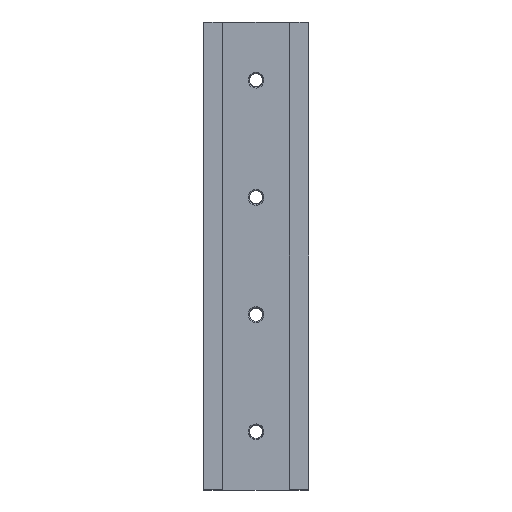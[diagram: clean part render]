
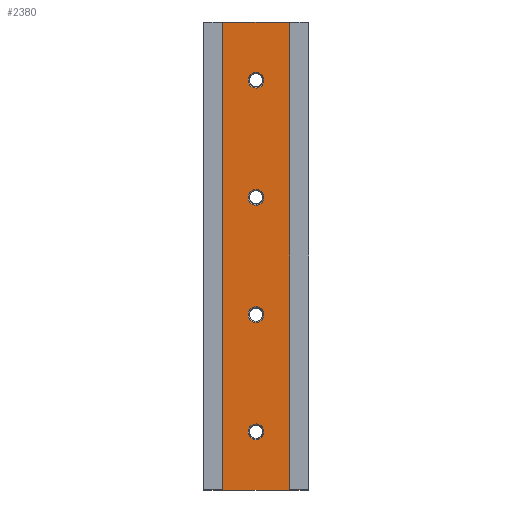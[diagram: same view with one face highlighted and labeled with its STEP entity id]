
A CAD part, front view. The second image highlights one B-rep face of the part: STEP entity #2380.
In plain terms, the highlighted planar face has unit normal (0, -1, 0).
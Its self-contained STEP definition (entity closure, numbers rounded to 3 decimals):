
#238 = CARTESIAN_POINT ( 'NONE',  ( 17., 0., 85.7 ) ) ;
#586 = LINE ( 'NONE', #5135, #17994 ) ;
#990 = CARTESIAN_POINT ( 'NONE',  ( 17., 0., 153.8 ) ) ;
#1030 = CARTESIAN_POINT ( 'NONE',  ( 34., 0., 239.5 ) ) ;
#1036 = PLANE ( 'NONE',  #19279 ) ;
#1055 = CARTESIAN_POINT ( 'NONE',  ( 34., 0., 239.5 ) ) ;
#1066 = DIRECTION ( 'NONE',  ( 0., 1., 0. ) ) ;
#1419 = CIRCLE ( 'NONE', #1544, 4.05 ) ;
#1502 = FACE_OUTER_BOUND ( 'NONE', #16357, .T. ) ;
#1544 = AXIS2_PLACEMENT_3D ( 'NONE', #16343, #6212, #18026 ) ;
#1545 = DIRECTION ( 'NONE',  ( 0., 0., 1. ) ) ;
#1882 = DIRECTION ( 'NONE',  ( 0., 0., 1. ) ) ;
#1897 = AXIS2_PLACEMENT_3D ( 'NONE', #2104, #13943, #3807 ) ;
#2104 = CARTESIAN_POINT ( 'NONE',  ( 17., 0., 89.75 ) ) ;
#2380 = ADVANCED_FACE ( 'NONE', ( #16004, #14955, #10458, #5951, #1502 ), #1036, .F. ) ;
#2644 = CARTESIAN_POINT ( 'NONE',  ( 17., 0., 213.8 ) ) ;
#3317 = AXIS2_PLACEMENT_3D ( 'NONE', #21794, #11715, #1882 ) ;
#3443 = EDGE_CURVE ( 'NONE', #12887, #7627, #13853, .T. ) ;
#3584 = VERTEX_POINT ( 'NONE', #2644 ) ;
#3807 = DIRECTION ( 'NONE',  ( 0., 0., 1. ) ) ;
#3995 = EDGE_CURVE ( 'NONE', #7627, #12887, #9494, .T. ) ;
#4025 = AXIS2_PLACEMENT_3D ( 'NONE', #17273, #7137, #18968 ) ;
#4259 = CARTESIAN_POINT ( 'NONE',  ( 0., 0., 239.5 ) ) ;
#4333 = AXIS2_PLACEMENT_3D ( 'NONE', #14909, #4787, #16619 ) ;
#4417 = DIRECTION ( 'NONE',  ( 0., 0., 1. ) ) ;
#4787 = DIRECTION ( 'NONE',  ( 0., 1., 0. ) ) ;
#5135 = CARTESIAN_POINT ( 'NONE',  ( 0., 0., 0. ) ) ;
#5361 = DIRECTION ( 'NONE',  ( 0., 1., 0. ) ) ;
#5951 = FACE_BOUND ( 'NONE', #15160, .T. ) ;
#5954 = DIRECTION ( 'NONE',  ( 1., 0., 0. ) ) ;
#5996 = CARTESIAN_POINT ( 'NONE',  ( 17., 0., 25.7 ) ) ;
#6089 = EDGE_CURVE ( 'NONE', #11697, #21344, #21189, .T. ) ;
#6172 = ORIENTED_EDGE ( 'NONE', *, *, #6089, .T. ) ;
#6212 = DIRECTION ( 'NONE',  ( 0., 1., 0. ) ) ;
#6810 = DIRECTION ( 'NONE',  ( 1., 0., 0. ) ) ;
#7137 = DIRECTION ( 'NONE',  ( 0., 1., 0. ) ) ;
#7144 = EDGE_CURVE ( 'NONE', #21714, #16894, #20104, .T. ) ;
#7418 = AXIS2_PLACEMENT_3D ( 'NONE', #21726, #11647, #1545 ) ;
#7627 = VERTEX_POINT ( 'NONE', #7779 ) ;
#7724 = VECTOR ( 'NONE', #10168, 1000. ) ;
#7779 = CARTESIAN_POINT ( 'NONE',  ( 17., 0., 145.7 ) ) ;
#7808 = EDGE_CURVE ( 'NONE', #15609, #3584, #21131, .T. ) ;
#8045 = VERTEX_POINT ( 'NONE', #5996 ) ;
#8335 = ORIENTED_EDGE ( 'NONE', *, *, #3995, .T. ) ;
#8386 = CIRCLE ( 'NONE', #20401, 4.05 ) ;
#8667 = ORIENTED_EDGE ( 'NONE', *, *, #7144, .T. ) ;
#8677 = CARTESIAN_POINT ( 'NONE',  ( 17., 0., 33.8 ) ) ;
#9063 = CIRCLE ( 'NONE', #7418, 4.05 ) ;
#9307 = CIRCLE ( 'NONE', #4333, 4.05 ) ;
#9494 = CIRCLE ( 'NONE', #10398, 4.05 ) ;
#10168 = DIRECTION ( 'NONE',  ( 0., 0., -1. ) ) ;
#10181 = EDGE_LOOP ( 'NONE', ( #10836, #8667 ) ) ;
#10194 = EDGE_CURVE ( 'NONE', #8045, #12115, #1419, .T. ) ;
#10289 = ORIENTED_EDGE ( 'NONE', *, *, #7808, .T. ) ;
#10398 = AXIS2_PLACEMENT_3D ( 'NONE', #15485, #5361, #17179 ) ;
#10458 = FACE_BOUND ( 'NONE', #10181, .T. ) ;
#10836 = ORIENTED_EDGE ( 'NONE', *, *, #19087, .T. ) ;
#11153 = CARTESIAN_POINT ( 'NONE',  ( 17., 0., 209.75 ) ) ;
#11212 = EDGE_CURVE ( 'NONE', #21344, #16092, #586, .T. ) ;
#11647 = DIRECTION ( 'NONE',  ( 0., 1., 0. ) ) ;
#11697 = VERTEX_POINT ( 'NONE', #20512 ) ;
#11715 = DIRECTION ( 'NONE',  ( 0., 1., 0. ) ) ;
#12115 = VERTEX_POINT ( 'NONE', #8677 ) ;
#12172 = CARTESIAN_POINT ( 'NONE',  ( 17., 0., 205.7 ) ) ;
#12323 = LINE ( 'NONE', #4259, #20752 ) ;
#12419 = CARTESIAN_POINT ( 'NONE',  ( 34., 0., 0. ) ) ;
#12710 = CARTESIAN_POINT ( 'NONE',  ( 17., 0., 93.8 ) ) ;
#12835 = CARTESIAN_POINT ( 'NONE',  ( 0., 0., 239.5 ) ) ;
#12861 = DIRECTION ( 'NONE',  ( 0., 0., 1. ) ) ;
#12887 = VERTEX_POINT ( 'NONE', #990 ) ;
#13853 = CIRCLE ( 'NONE', #4025, 4.05 ) ;
#13943 = DIRECTION ( 'NONE',  ( 0., 1., 0. ) ) ;
#14117 = ORIENTED_EDGE ( 'NONE', *, *, #15737, .F. ) ;
#14333 = ORIENTED_EDGE ( 'NONE', *, *, #18366, .T. ) ;
#14510 = VERTEX_POINT ( 'NONE', #1030 ) ;
#14535 = DIRECTION ( 'NONE',  ( 0., 1., 0. ) ) ;
#14909 = CARTESIAN_POINT ( 'NONE',  ( 17., 0., 89.75 ) ) ;
#14955 = FACE_BOUND ( 'NONE', #15406, .T. ) ;
#15160 = EDGE_LOOP ( 'NONE', ( #21630, #14333 ) ) ;
#15317 = EDGE_CURVE ( 'NONE', #3584, #15609, #8386, .T. ) ;
#15372 = LINE ( 'NONE', #1055, #19330 ) ;
#15406 = EDGE_LOOP ( 'NONE', ( #8335, #18884 ) ) ;
#15485 = CARTESIAN_POINT ( 'NONE',  ( 17., 0., 149.75 ) ) ;
#15609 = VERTEX_POINT ( 'NONE', #12172 ) ;
#15737 = EDGE_CURVE ( 'NONE', #11697, #14510, #12323, .T. ) ;
#16004 = FACE_BOUND ( 'NONE', #19953, .T. ) ;
#16092 = VERTEX_POINT ( 'NONE', #12419 ) ;
#16343 = CARTESIAN_POINT ( 'NONE',  ( 17., 0., 29.75 ) ) ;
#16357 = EDGE_LOOP ( 'NONE', ( #17606, #21014, #14117, #6172 ) ) ;
#16520 = CARTESIAN_POINT ( 'NONE',  ( 0., 0., 0. ) ) ;
#16619 = DIRECTION ( 'NONE',  ( 0., 0., 1. ) ) ;
#16894 = VERTEX_POINT ( 'NONE', #238 ) ;
#17050 = ORIENTED_EDGE ( 'NONE', *, *, #15317, .T. ) ;
#17179 = DIRECTION ( 'NONE',  ( 0., 0., 1. ) ) ;
#17273 = CARTESIAN_POINT ( 'NONE',  ( 17., 0., 149.75 ) ) ;
#17606 = ORIENTED_EDGE ( 'NONE', *, *, #11212, .T. ) ;
#17994 = VECTOR ( 'NONE', #6810, 1000. ) ;
#18026 = DIRECTION ( 'NONE',  ( 0., 0., 1. ) ) ;
#18366 = EDGE_CURVE ( 'NONE', #12115, #8045, #9063, .T. ) ;
#18563 = CARTESIAN_POINT ( 'NONE',  ( 0., 0., 239.5 ) ) ;
#18884 = ORIENTED_EDGE ( 'NONE', *, *, #3443, .T. ) ;
#18968 = DIRECTION ( 'NONE',  ( 0., 0., 1. ) ) ;
#18992 = EDGE_CURVE ( 'NONE', #14510, #16092, #15372, .T. ) ;
#19087 = EDGE_CURVE ( 'NONE', #16894, #21714, #9307, .T. ) ;
#19279 = AXIS2_PLACEMENT_3D ( 'NONE', #12835, #14535, #4417 ) ;
#19330 = VECTOR ( 'NONE', #19552, 1000. ) ;
#19552 = DIRECTION ( 'NONE',  ( 0., 0., -1. ) ) ;
#19953 = EDGE_LOOP ( 'NONE', ( #10289, #17050 ) ) ;
#20104 = CIRCLE ( 'NONE', #1897, 4.05 ) ;
#20401 = AXIS2_PLACEMENT_3D ( 'NONE', #11153, #1066, #12861 ) ;
#20512 = CARTESIAN_POINT ( 'NONE',  ( 0., 0., 239.5 ) ) ;
#20752 = VECTOR ( 'NONE', #5954, 1000. ) ;
#21014 = ORIENTED_EDGE ( 'NONE', *, *, #18992, .F. ) ;
#21131 = CIRCLE ( 'NONE', #3317, 4.05 ) ;
#21189 = LINE ( 'NONE', #18563, #7724 ) ;
#21344 = VERTEX_POINT ( 'NONE', #16520 ) ;
#21630 = ORIENTED_EDGE ( 'NONE', *, *, #10194, .T. ) ;
#21714 = VERTEX_POINT ( 'NONE', #12710 ) ;
#21726 = CARTESIAN_POINT ( 'NONE',  ( 17., 0., 29.75 ) ) ;
#21794 = CARTESIAN_POINT ( 'NONE',  ( 17., 0., 209.75 ) ) ;
